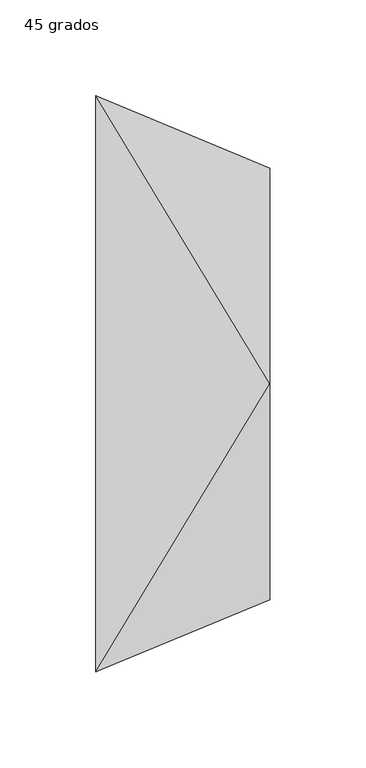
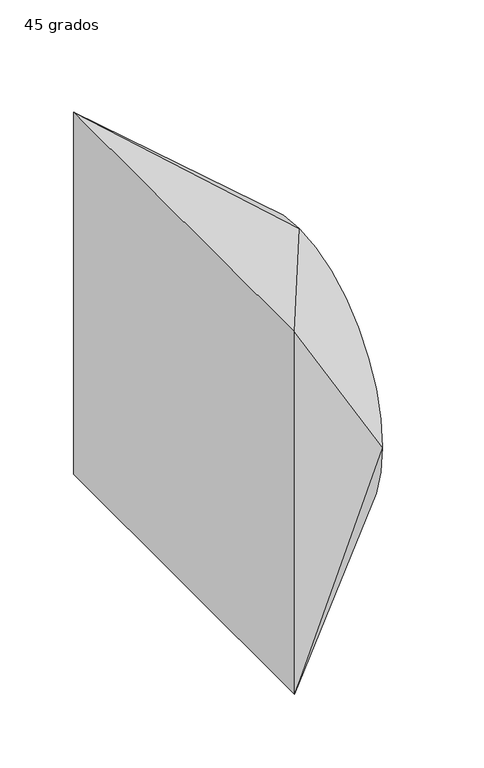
"""IFC4 building model written with IfcOpenShell, lengths in millimetres: duct fitting geometry, M_Transición de rectangular a redondo - Ángulo : 45 grados."""

from ifc_helpers import new_model, si_unit, frame, origin, place, context, project, spatial, circle_curve, source, transform, mapped, element, save
from ifc_brep_helpers import plane_surface, spline_surface, advanced_brep


def duct_fitting_45_grados_72c16622(model_context):
    return source(origin(), model_context, "Body", "AdvancedBrep", [
        advanced_brep(
        [(90.5330086, 0.0, 112.5), (90.5330086, -112.5, 0.0), (90.5330086, 0.0, -112.5), (90.5330086, 112.5, 0.0), (0.0, -150.0, 150.0), (0.0, 150.0, 150.0), (0.0, 150.0, -150.0), (0.0, -150.0, -150.0)],
        [
            (0, 1, circle_curve(frame((90.5330086, 0.0, 0.0), z_axis=(1.0, 0.0, 0.0), x_axis=(0.0, 1.0, 0.0)), 112.5)),
            (1, 2, circle_curve(frame((90.5330086, 0.0, 0.0), z_axis=(1.0, 0.0, 0.0), x_axis=(0.0, 1.0, 0.0)), 112.5)),
            (2, 3, circle_curve(frame((90.5330086, 0.0, 0.0), z_axis=(1.0, 0.0, 0.0), x_axis=(0.0, 1.0, 0.0)), 112.5)),
            (3, 0, circle_curve(frame((90.5330086, 0.0, 0.0), z_axis=(1.0, 0.0, 0.0), x_axis=(0.0, 1.0, 0.0)), 112.5)),
            (4, 5),
            (5, 6),
            (6, 7),
            (7, 4),
            (0, 4),
            (4, 1),
            (7, 1),
            (7, 2),
            (6, 2),
            (6, 3),
            (5, 3),
            (5, 0),
        ],
        [
            plane_surface(frame((90.5330086, 0.0, 0.0), z_axis=(1.0, 0.0, 0.0), x_axis=(0.0, 0.0, -1.0))),
            plane_surface(frame((0.0, 0.0, 0.0), z_axis=(-1.0, 0.0, 0.0), x_axis=(0.0, 0.0, -1.0))),
            spline_surface(2, 1, [[(0.0, -150.0, 150.0), (90.5330086, 0.0, 112.5)], [(0.0, -150.0, 150.0), (90.5330086, -112.5, 112.5)], [(0.0, -150.0, 150.0), (90.5330086, -112.5, 0.0)]], [3, 3], [2, 2], [0.0, 1.0], [0.0, 1.0], weights=[[1.0, 1.0], [0.7071067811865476, 0.7071067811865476], [1.0, 1.0]]),
            plane_surface(frame((0.0, -150.0, 0.0), z_axis=(0.38268343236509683, -0.9238795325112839, 0.0), x_axis=(0.0, 0.0, -1.0))),
            spline_surface(2, 1, [[(0.0, -150.0, -150.0), (90.5330086, -112.5, 0.0)], [(0.0, -150.0, -150.0), (90.5330086, -112.5, -112.5)], [(0.0, -150.0, -150.0), (90.5330086, 0.0, -112.5)]], [3, 3], [2, 2], [0.0, 1.0], [0.0, 1.0], weights=[[1.0, 1.0], [0.7071067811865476, 0.7071067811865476], [1.0, 1.0]]),
            plane_surface(frame((0.0, 0.0, -150.0), z_axis=(0.3826834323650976, 0.0, -0.9238795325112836), x_axis=(0.0, 1.0, 0.0))),
            spline_surface(2, 1, [[(0.0, 150.0, -150.0), (90.5330086, 0.0, -112.5)], [(0.0, 150.0, -150.0), (90.5330086, 112.5, -112.5)], [(0.0, 150.0, -150.0), (90.5330086, 112.5, 0.0)]], [3, 3], [2, 2], [0.0, 1.0], [0.0, 1.0], weights=[[1.0, 1.0], [0.7071067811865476, 0.7071067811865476], [1.0, 1.0]]),
            plane_surface(frame((0.0, 150.0, 0.0), z_axis=(0.3826834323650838, 0.9238795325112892, 0.0), x_axis=(0.0, 0.0, 1.0))),
            spline_surface(2, 1, [[(0.0, 150.0, 150.0), (90.5330086, 112.5, 0.0)], [(0.0, 150.0, 150.0), (90.5330086, 112.5, 112.5)], [(0.0, 150.0, 150.0), (90.5330086, 0.0, 112.5)]], [3, 3], [2, 2], [0.0, 1.0], [0.0, 1.0], weights=[[1.0, 1.0], [0.7071067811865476, 0.7071067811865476], [1.0, 1.0]]),
            plane_surface(frame((0.0, 0.0, 150.0), z_axis=(0.3826834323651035, 0.0, 0.9238795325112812), x_axis=(0.0, -1.0, 0.0))),
        ],
        [
            (0, [[1, 2, 3, 4]]),
            (1, [[5, 6, 7, 8]]),
            (2, [[-1, 9, 10]]),
            (3, [[-8, 11, -10]]),
            (4, [[-2, -11, 12]]),
            (5, [[-7, 13, -12]]),
            (6, [[-3, -13, 14]]),
            (7, [[-6, 15, -14]]),
            (8, [[-4, -15, 16]]),
            (9, [[-5, -9, -16]]),
        ],
    ),
    ])


if __name__ == "__main__":
    model = new_model("IFC4")
    model_context = context("Model", 3, world=origin())
    ifc_project = project(units=[si_unit("LENGTHUNIT", "METRE", prefix="MILLI")], contexts=[model_context])
    site = spatial("IfcSite", under=ifc_project)
    building = spatial("IfcBuilding", under=site)
    placement = place(None, origin())
    duct_fitting_45_grados_shape = duct_fitting_45_grados_72c16622(model_context)
    element("IfcDuctFitting", 1, ObjectType="M_Transición de rectangular a redondo - Ángulo : 45 grados", at=placement, inside=building, context=model_context, shape_type="MappedRepresentation", body=[
        mapped(duct_fitting_45_grados_shape, transform((0.0, 0.0, 0.0), x_axis=(1.0, 0.0, 0.0), y_axis=(0.0, 1.0, 0.0), z_axis=(0.0, 0.0, 1.0))),
    ])
    save(model, "model.ifc")
